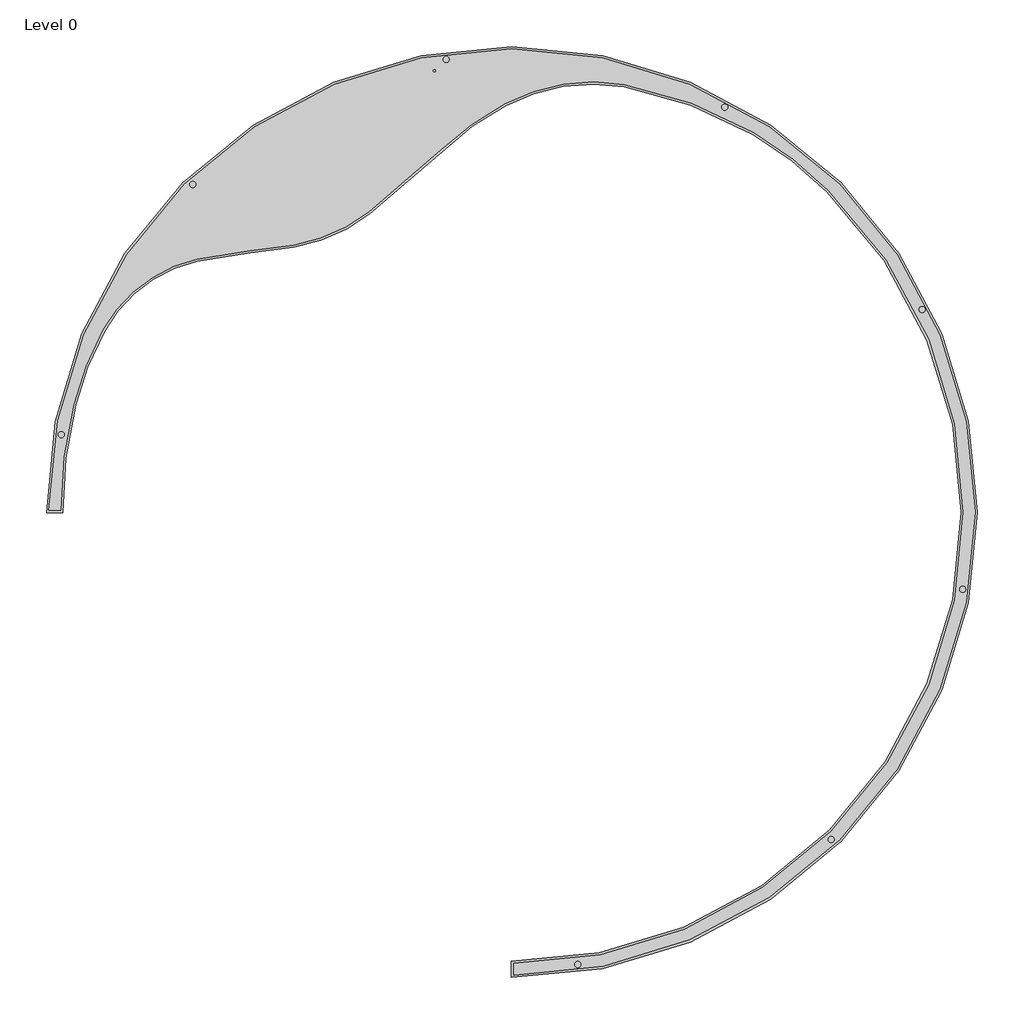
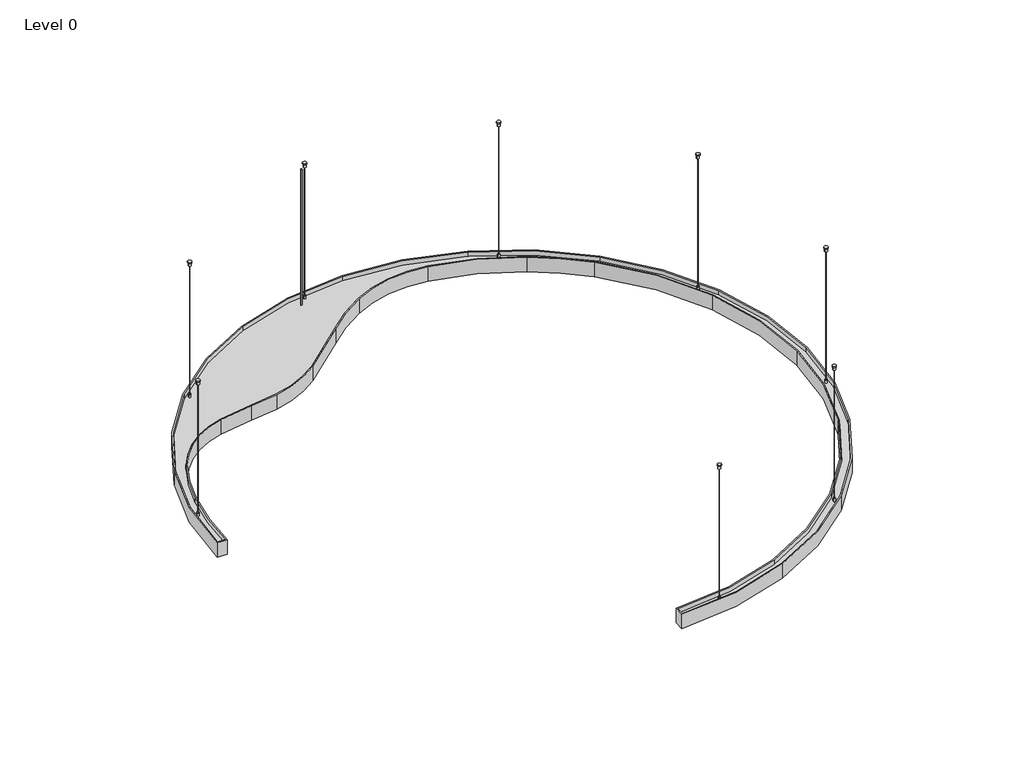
# One storey: 1 light fixture.
"""IFC4 building model written with IfcOpenShell, lengths in millimetres."""

from ifc_helpers import new_model, si_unit, origin, place, context, project, spatial, transform, mapped, element, save
from components import silver_anodized_3000_k_7350_lm_4203b03f

model = new_model("IFC4")

# Units and contexts
model_context = context("Model", 3, world=origin())
ifc_project = project(units=[si_unit("LENGTHUNIT", "METRE", prefix="MILLI")], contexts=[model_context])

# Site, building, storey
site = spatial("IfcSite", under=ifc_project)
building = spatial("IfcBuilding", under=site)
storey = spatial("IfcBuildingStorey", under=building, Name="Level 0", Elevation=0.0)

# Light fixture
placement = place(None, origin())
silver_anodized_3000_k_7350_lm_shape = silver_anodized_3000_k_7350_lm_4203b03f(model_context)
element("IfcLightFixture", 1, ObjectType="KLUŚ - MIFOR - MI-MOON : Silver anodized - 3000 K - 7350 lm", at=placement, inside=storey, context=model_context, shape_type="MappedRepresentation", body=[
    mapped(silver_anodized_3000_k_7350_lm_shape, transform((0.0, 0.0, 555.0), x_axis=(1.0, 0.0, 0.0), y_axis=(0.0, -1.0, 0.0), z_axis=(0.0, 0.0, -1.0))),
])

save(model, "model.ifc")
